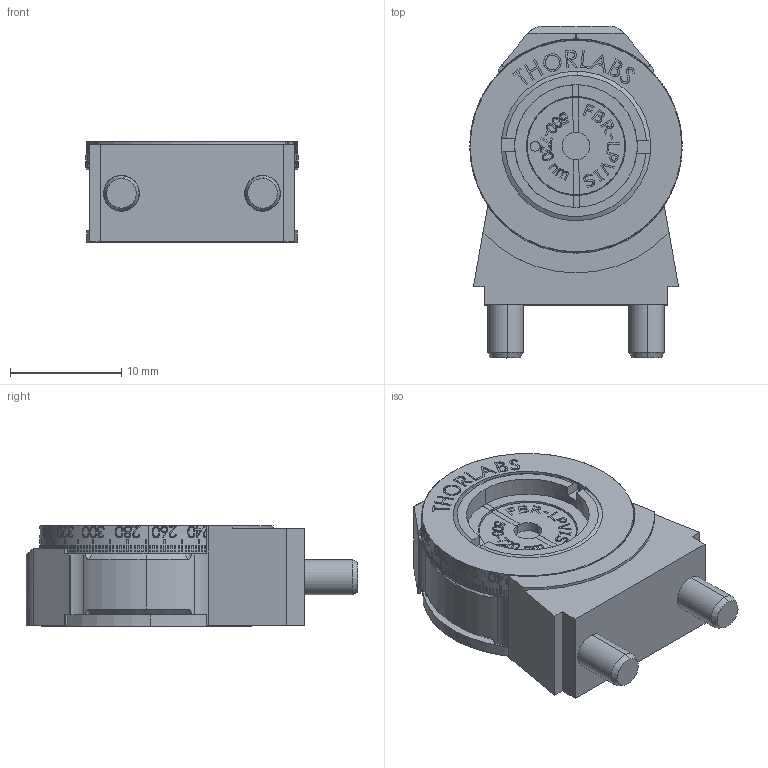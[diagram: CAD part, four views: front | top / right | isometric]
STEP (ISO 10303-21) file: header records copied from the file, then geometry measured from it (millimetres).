
FILE_DESCRIPTION (( 'STEP AP203' ), '1' );
FILE_NAME ('TTN035501-E0W.STEP', '2015-02-11T15:01:58', ( 'Admin' ), ( '' ), 'SwSTEP 2.0', 'SolidWorks 2014', '' );
FILE_SCHEMA (( 'CONFIG_CONTROL_DESIGN' ));
Products named in the file (1): TTN035501-E0W
Bounding box: 19.1 x 29.88 x 9.04 mm (x, y, z)
Volume: 2809.9 mm3; surface area: 4210.3 mm2
Topology: 10 solids, 10 shells, 1941 faces, 4993 edges, 3380 vertices
Faces by surface type: plane 1073, bspline 478, cylinder 351, cone 39
Entity records: 95283 total; most frequent: CARTESIAN_POINT 51088, ORIENTED_EDGE 9978, DIRECTION 7465, EDGE_CURVE 4989, VERTEX_POINT 3380, AXIS2_PLACEMENT_3D 2565, VECTOR 2335, LINE 2335
